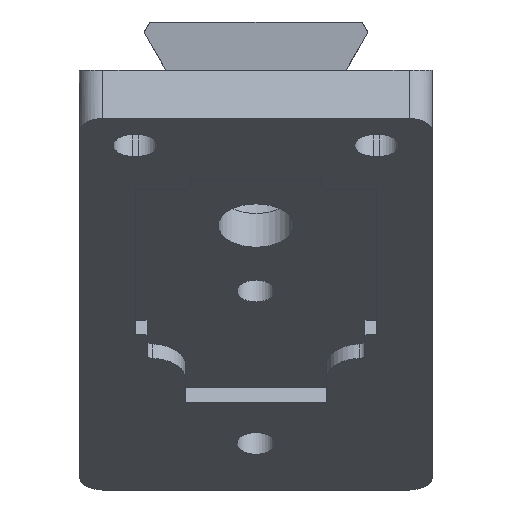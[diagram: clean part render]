
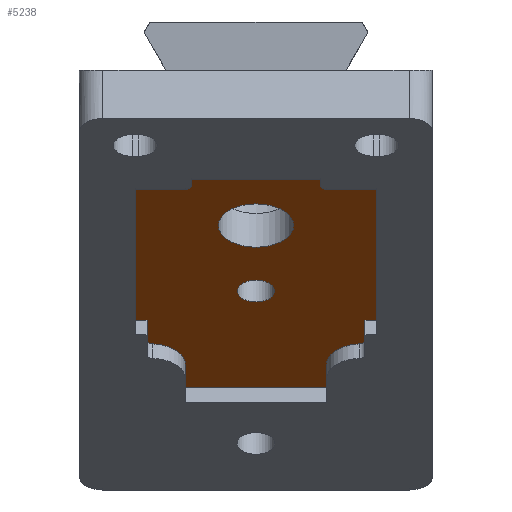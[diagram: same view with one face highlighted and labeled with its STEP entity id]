
A CAD part, left-side view. The second image highlights one B-rep face of the part: STEP entity #5238.
In plain terms, the highlighted planar face has unit normal (-0.574, 0, -0.819).
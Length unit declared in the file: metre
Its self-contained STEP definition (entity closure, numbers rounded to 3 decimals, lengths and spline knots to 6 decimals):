
#337=CIRCLE('',#5280,0.0016);
#339=CIRCLE('',#5283,0.0032);
#408=CIRCLE('',#5563,0.0005);
#409=CIRCLE('',#5564,0.003);
#410=CIRCLE('',#5565,0.003);
#411=CIRCLE('',#5566,0.0005);
#412=CIRCLE('',#5567,0.0005);
#413=CIRCLE('',#5568,0.0005);
#1874=ORIENTED_EDGE('',*,*,#2675,.T.);
#1875=ORIENTED_EDGE('',*,*,#2689,.T.);
#1876=ORIENTED_EDGE('',*,*,#2690,.T.);
#1877=ORIENTED_EDGE('',*,*,#2676,.T.);
#1878=ORIENTED_EDGE('',*,*,#2680,.T.);
#1879=ORIENTED_EDGE('',*,*,#2682,.F.);
#1880=ORIENTED_EDGE('',*,*,#2691,.T.);
#1881=ORIENTED_EDGE('',*,*,#2692,.T.);
#1882=ORIENTED_EDGE('',*,*,#2683,.F.);
#1883=ORIENTED_EDGE('',*,*,#2687,.F.);
#1884=ORIENTED_EDGE('',*,*,#2688,.T.);
#1885=ORIENTED_EDGE('',*,*,#2658,.F.);
#1886=ORIENTED_EDGE('',*,*,#2693,.T.);
#1887=ORIENTED_EDGE('',*,*,#2660,.T.);
#1888=ORIENTED_EDGE('',*,*,#2664,.T.);
#1889=ORIENTED_EDGE('',*,*,#2666,.F.);
#1890=ORIENTED_EDGE('',*,*,#2694,.T.);
#1891=ORIENTED_EDGE('',*,*,#2667,.F.);
#1892=ORIENTED_EDGE('',*,*,#2671,.F.);
#1893=ORIENTED_EDGE('',*,*,#2673,.F.);
#1894=ORIENTED_EDGE('',*,*,#1974,.F.);
#1895=ORIENTED_EDGE('',*,*,#1976,.F.);
#1974=EDGE_CURVE('',#2735,#2735,#337,.T.);
#1976=EDGE_CURVE('',#2737,#2737,#339,.T.);
#2658=EDGE_CURVE('',#3189,#3190,#3665,.T.);
#2660=EDGE_CURVE('',#3191,#3192,#3667,.T.);
#2664=EDGE_CURVE('',#3192,#3193,#3671,.T.);
#2666=EDGE_CURVE('',#3194,#3193,#3673,.T.);
#2667=EDGE_CURVE('',#3195,#3196,#3674,.T.);
#2671=EDGE_CURVE('',#3197,#3195,#3678,.T.);
#2673=EDGE_CURVE('',#3198,#3197,#3680,.T.);
#2675=EDGE_CURVE('',#3198,#3199,#3682,.T.);
#2676=EDGE_CURVE('',#3200,#3201,#3683,.T.);
#2680=EDGE_CURVE('',#3201,#3202,#3687,.T.);
#2682=EDGE_CURVE('',#3203,#3202,#3689,.T.);
#2683=EDGE_CURVE('',#3204,#3205,#3690,.T.);
#2687=EDGE_CURVE('',#3206,#3204,#3694,.T.);
#2688=EDGE_CURVE('',#3206,#3190,#3695,.T.);
#2689=EDGE_CURVE('',#3199,#3207,#408,.T.);
#2690=EDGE_CURVE('',#3207,#3200,#409,.F.);
#2691=EDGE_CURVE('',#3203,#3208,#410,.F.);
#2692=EDGE_CURVE('',#3208,#3205,#411,.T.);
#2693=EDGE_CURVE('',#3189,#3191,#412,.F.);
#2694=EDGE_CURVE('',#3194,#3196,#413,.F.);
#2735=VERTEX_POINT('',#6784);
#2737=VERTEX_POINT('',#6789);
#3189=VERTEX_POINT('',#9032);
#3190=VERTEX_POINT('',#9034);
#3191=VERTEX_POINT('',#9038);
#3192=VERTEX_POINT('',#9039);
#3193=VERTEX_POINT('',#9044);
#3194=VERTEX_POINT('',#9048);
#3195=VERTEX_POINT('',#9052);
#3196=VERTEX_POINT('',#9053);
#3197=VERTEX_POINT('',#9058);
#3198=VERTEX_POINT('',#9062);
#3199=VERTEX_POINT('',#9066);
#3200=VERTEX_POINT('',#9070);
#3201=VERTEX_POINT('',#9071);
#3202=VERTEX_POINT('',#9076);
#3203=VERTEX_POINT('',#9080);
#3204=VERTEX_POINT('',#9084);
#3205=VERTEX_POINT('',#9085);
#3206=VERTEX_POINT('',#9090);
#3207=VERTEX_POINT('',#9096);
#3208=VERTEX_POINT('',#9099);
#3665=LINE('',#9033,#4154);
#3667=LINE('',#9037,#4156);
#3671=LINE('',#9045,#4160);
#3673=LINE('',#9049,#4162);
#3674=LINE('',#9051,#4163);
#3678=LINE('',#9059,#4167);
#3680=LINE('',#9063,#4169);
#3682=LINE('',#9067,#4171);
#3683=LINE('',#9069,#4172);
#3687=LINE('',#9077,#4176);
#3689=LINE('',#9081,#4178);
#3690=LINE('',#9083,#4179);
#3694=LINE('',#9091,#4183);
#3695=LINE('',#9093,#4184);
#4154=VECTOR('',#6611,1.);
#4156=VECTOR('',#6615,1.);
#4160=VECTOR('',#6621,1.);
#4162=VECTOR('',#6625,1.);
#4163=VECTOR('',#6628,1.);
#4167=VECTOR('',#6634,1.);
#4169=VECTOR('',#6638,1.);
#4171=VECTOR('',#6642,1.);
#4172=VECTOR('',#6645,1.);
#4176=VECTOR('',#6651,1.);
#4178=VECTOR('',#6655,1.);
#4179=VECTOR('',#6658,1.);
#4183=VECTOR('',#6664,1.);
#4184=VECTOR('',#6667,1.);
#4491=EDGE_LOOP('',(#1874,#1875,#1876,#1877,#1878,#1879,#1880,#1881,#1882,
#1883,#1884,#1885,#1886,#1887,#1888,#1889,#1890,#1891,#1892,#1893));
#4492=EDGE_LOOP('',(#1894));
#4493=EDGE_LOOP('',(#1895));
#4808=FACE_BOUND('',#4491,.T.);
#4809=FACE_BOUND('',#4492,.T.);
#4810=FACE_BOUND('',#4493,.T.);
#4969=PLANE('',#5562);
#5238=ADVANCED_FACE('',(#4808,#4809,#4810),#4969,.T.);
#5280=AXIS2_PLACEMENT_3D('',#6783,#5639,#5640);
#5283=AXIS2_PLACEMENT_3D('',#6788,#5645,#5646);
#5562=AXIS2_PLACEMENT_3D('',#9094,#6668,#6669);
#5563=AXIS2_PLACEMENT_3D('',#9095,#6670,#6671);
#5564=AXIS2_PLACEMENT_3D('',#9097,#6672,#6673);
#5565=AXIS2_PLACEMENT_3D('',#9098,#6674,#6675);
#5566=AXIS2_PLACEMENT_3D('',#9100,#6676,#6677);
#5567=AXIS2_PLACEMENT_3D('',#9101,#6678,#6679);
#5568=AXIS2_PLACEMENT_3D('',#9102,#6680,#6681);
#5639=DIRECTION('',(-0.574,0.,-0.819));
#5640=DIRECTION('',(-0.819,0.,0.574));
#5645=DIRECTION('',(-0.574,0.,-0.819));
#5646=DIRECTION('',(-0.819,0.,0.574));
#6611=DIRECTION('',(0.,-1.,0.));
#6615=DIRECTION('',(-0.819,0.,0.574));
#6621=DIRECTION('',(0.,1.,0.));
#6625=DIRECTION('',(-0.819,0.,0.574));
#6628=DIRECTION('',(0.,-1.,0.));
#6634=DIRECTION('',(-0.819,0.,0.574));
#6638=DIRECTION('',(0.,1.,0.));
#6642=DIRECTION('',(0.819,0.,-0.574));
#6645=DIRECTION('',(0.819,0.,-0.574));
#6651=DIRECTION('',(0.,-1.,0.));
#6655=DIRECTION('',(0.819,0.,-0.574));
#6658=DIRECTION('',(0.819,0.,-0.574));
#6664=DIRECTION('',(0.,1.,0.));
#6667=DIRECTION('',(-0.819,0.,0.574));
#6668=DIRECTION('',(-0.574,0.,-0.819));
#6669=DIRECTION('',(0.819,0.,-0.574));
#6670=DIRECTION('',(-0.574,0.,-0.819));
#6671=DIRECTION('',(-0.819,0.,0.574));
#6672=DIRECTION('',(-0.574,0.,-0.819));
#6673=DIRECTION('',(-0.819,0.,0.574));
#6674=DIRECTION('',(-0.574,0.,-0.819));
#6675=DIRECTION('',(-0.819,0.,0.574));
#6676=DIRECTION('',(-0.574,0.,-0.819));
#6677=DIRECTION('',(-0.819,0.,0.574));
#6678=DIRECTION('',(-0.574,0.,-0.819));
#6679=DIRECTION('',(-0.819,0.,0.574));
#6680=DIRECTION('',(-0.574,0.,-0.819));
#6681=DIRECTION('',(-0.819,0.,0.574));
#6783=CARTESIAN_POINT('',(0.02069,0.,-0.018746));
#6784=CARTESIAN_POINT('',(0.019379,0.,-0.017828));
#6788=CARTESIAN_POINT('',(0.012744,0.,-0.013182));
#6789=CARTESIAN_POINT('',(0.010122,0.,-0.011347));
#9032=CARTESIAN_POINT('',(0.0066,-0.006,-0.00888));
#9033=CARTESIAN_POINT('',(0.0066,-0.007875,-0.00888));
#9034=CARTESIAN_POINT('',(0.0066,-0.01025,-0.00888));
#9037=CARTESIAN_POINT('',(0.006027,-0.0055,-0.008479));
#9038=CARTESIAN_POINT('',(0.006191,-0.0055,-0.008593));
#9039=CARTESIAN_POINT('',(0.005453,-0.0055,-0.008077));
#9044=CARTESIAN_POINT('',(0.005453,0.0055,-0.008077));
#9045=CARTESIAN_POINT('',(0.005453,0.,-0.008077));
#9048=CARTESIAN_POINT('',(0.006191,0.0055,-0.008593));
#9049=CARTESIAN_POINT('',(0.006027,0.0055,-0.008479));
#9051=CARTESIAN_POINT('',(0.0066,0.007875,-0.00888));
#9052=CARTESIAN_POINT('',(0.0066,0.01025,-0.00888));
#9053=CARTESIAN_POINT('',(0.0066,0.006,-0.00888));
#9058=CARTESIAN_POINT('',(0.024212,0.01025,-0.021212));
#9059=CARTESIAN_POINT('',(0.015406,0.01025,-0.015046));
#9062=CARTESIAN_POINT('',(0.024212,0.00925,-0.021212));
#9063=CARTESIAN_POINT('',(0.024212,0.00975,-0.021212));
#9066=CARTESIAN_POINT('',(0.026677,0.00925,-0.022938));
#9067=CARTESIAN_POINT('',(0.025645,0.00925,-0.022216));
#9069=CARTESIAN_POINT('',(0.029741,0.006,-0.025084));
#9070=CARTESIAN_POINT('',(0.029536,0.006,-0.02494));
#9071=CARTESIAN_POINT('',(0.032403,0.006,-0.026948));
#9076=CARTESIAN_POINT('',(0.032403,-0.006,-0.026948));
#9077=CARTESIAN_POINT('',(0.032403,0.,-0.026948));
#9080=CARTESIAN_POINT('',(0.029536,-0.006,-0.02494));
#9081=CARTESIAN_POINT('',(0.029741,-0.006,-0.025084));
#9083=CARTESIAN_POINT('',(0.025645,-0.00925,-0.022216));
#9084=CARTESIAN_POINT('',(0.024212,-0.00925,-0.021212));
#9085=CARTESIAN_POINT('',(0.026677,-0.00925,-0.022938));
#9090=CARTESIAN_POINT('',(0.024212,-0.01025,-0.021212));
#9091=CARTESIAN_POINT('',(0.024212,-0.00975,-0.021212));
#9093=CARTESIAN_POINT('',(0.018478,-0.01025,-0.017197));
#9094=CARTESIAN_POINT('',(0.020526,0.,-0.018631));
#9095=CARTESIAN_POINT('',(0.026677,0.00875,-0.022938));
#9096=CARTESIAN_POINT('',(0.027085,0.008786,-0.023224));
#9097=CARTESIAN_POINT('',(0.029536,0.009,-0.02494));
#9098=CARTESIAN_POINT('',(0.029536,-0.009,-0.02494));
#9099=CARTESIAN_POINT('',(0.027085,-0.008786,-0.023224));
#9100=CARTESIAN_POINT('',(0.026677,-0.00875,-0.022938));
#9101=CARTESIAN_POINT('',(0.006191,-0.006,-0.008593));
#9102=CARTESIAN_POINT('',(0.006191,0.006,-0.008593));
